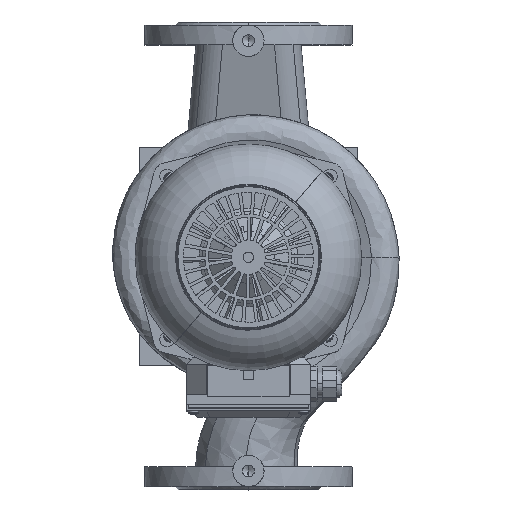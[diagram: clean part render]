
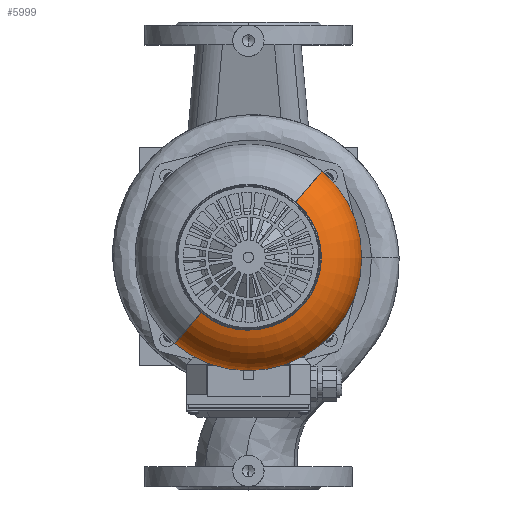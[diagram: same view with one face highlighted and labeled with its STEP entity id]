
A CAD part, top view. The second image highlights one B-rep face of the part: STEP entity #5999.
In plain terms, the highlighted toroidal (fillet/blend) face has major radius 59 mm and minor radius 50 mm.
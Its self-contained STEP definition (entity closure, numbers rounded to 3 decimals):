
#5999=ADVANCED_FACE('NONE',(#14845),#14846,.T.);
#14845=FACE_OUTER_BOUND('',#23049,.T.);
#14846=TOROIDAL_SURFACE('',#23050,59.0,50.0);
#23049=EDGE_LOOP('',(#37155,#37156,#37157,#37158));
#23050=AXIS2_PLACEMENT_3D('',#37159,#37160,#37161);
#37155=ORIENTED_EDGE('',*,*,#49836,.F.);
#37156=ORIENTED_EDGE('',*,*,#49835,.T.);
#37157=ORIENTED_EDGE('',*,*,#49837,.F.);
#37158=ORIENTED_EDGE('',*,*,#49838,.T.);
#37159=CARTESIAN_POINT('',(49.225,0.0,0.0));
#37160=DIRECTION('',(1.0,0.,0.));
#37161=DIRECTION('',(0.,0.,-1.0));
#49835=EDGE_CURVE('NONE',#61886,#61890,#61892,.T.);
#49836=EDGE_CURVE('',#61886,#61893,#61894,.T.);
#49837=EDGE_CURVE('',#61895,#61890,#61896,.T.);
#49838=EDGE_CURVE('NONE',#61895,#61893,#61897,.T.);
#61886=VERTEX_POINT('',#83954);
#61890=VERTEX_POINT('NONE',#83959);
#61892=CIRCLE('',#83962,109.);
#61893=VERTEX_POINT('NONE',#83963);
#61894=CIRCLE('',#83964,50.0);
#61895=VERTEX_POINT('',#83965);
#61896=CIRCLE('',#83966,50.0);
#61897=CIRCLE('',#83967,70.229);
#83954=CARTESIAN_POINT('',(49.225,0.,-109.));
#83959=CARTESIAN_POINT('',(49.225,0.,109.0));
#83962=AXIS2_PLACEMENT_3D('',#95629,#95630,#95631);
#83963=CARTESIAN_POINT('',(97.948,0.,-70.229));
#83964=AXIS2_PLACEMENT_3D('',#95632,#95633,#95634);
#83965=CARTESIAN_POINT('',(97.948,0.,70.229));
#83966=AXIS2_PLACEMENT_3D('',#95635,#95636,#95637);
#83967=AXIS2_PLACEMENT_3D('',#95638,#95639,#95640);
#95629=CARTESIAN_POINT('',(49.225,0.0,0.0));
#95630=DIRECTION('',(1.0,0.,0.));
#95631=DIRECTION('',(0.,0.,-1.0));
#95632=CARTESIAN_POINT('',(49.225,0.,-59.0));
#95633=DIRECTION('',(0.,-1.0,0.));
#95634=DIRECTION('',(0.,0.,-1.0));
#95635=CARTESIAN_POINT('',(49.225,0.,59.0));
#95636=DIRECTION('',(0.,-1.0,0.));
#95637=DIRECTION('',(0.,0.,1.0));
#95638=CARTESIAN_POINT('',(97.948,0.0,0.0));
#95639=DIRECTION('',(-1.0,0.,0.));
#95640=DIRECTION('',(0.,0.,1.0));
